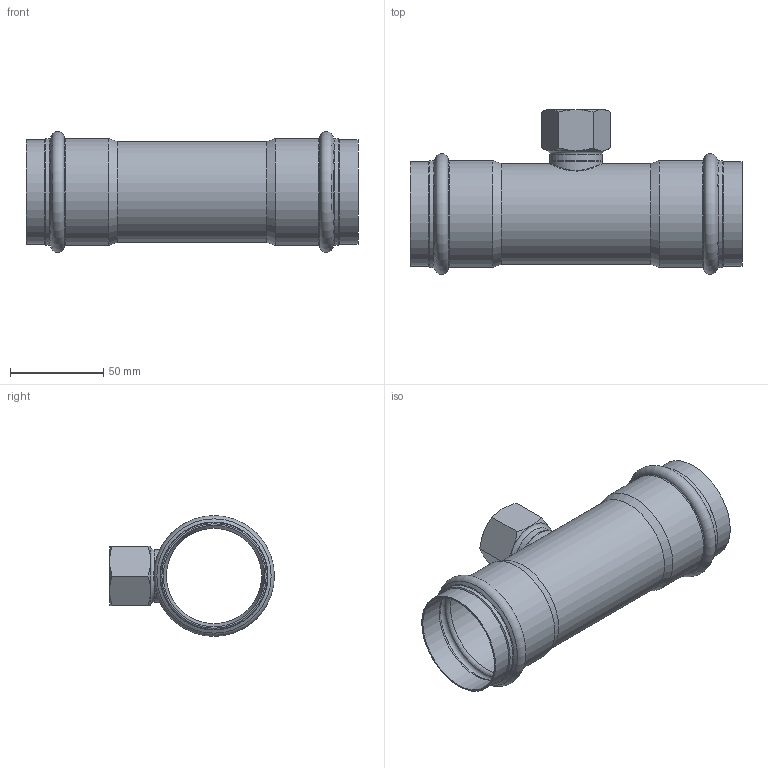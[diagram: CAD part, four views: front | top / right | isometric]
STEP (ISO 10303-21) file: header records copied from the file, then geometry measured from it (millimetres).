
FILE_DESCRIPTION((''),'2;1');
FILE_NAME('G:\Nirosan-Schmiedefeld\Technics\CAD\001 Serie 9.000\054\69130g543454h(2).stp','2016-02-22T10:00:30',('herberg'),(''),'Autodesk Inventor 2009','Autodesk Inventor 2009','');
FILE_SCHEMA(('AUTOMOTIVE_DESIGN { 1 0 10303 214 1 1 1 1 }'));
Length unit declared in the file: millimetre
Products named in the file (3): 69130g543454h(2); 691305428LM(1); IG2834(1)
Assembly tree (2 placements, depth 2):
  69130g543454h(2)
    691305428LM(1)
    IG2834(1)
Bounding box: 178 x 88.4 x 64.8 mm (x, y, z)
Volume: 55237.1 mm3; surface area: 69819.4 mm2
Topology: 2 solids, 2 shells, 67 faces, 145 edges, 83 vertices
Faces by surface type: cone 23, cylinder 15, bspline 14, plane 11, torus 4
Full cylindrical faces by diameter (mm): 25 x1, 28 x2, 51 x1, 54 x1, 54.35 x4, 55.95 x2, 57.35 x4
Entity records: 3052 total; most frequent: CARTESIAN_POINT 1842, DIRECTION 238, ORIENTED_EDGE 186, AXIS2_PLACEMENT_3D 116, EDGE_LOOP 116, EDGE_CURVE 93, VERTEX_POINT 73, FACE_OUTER_BOUND 67
